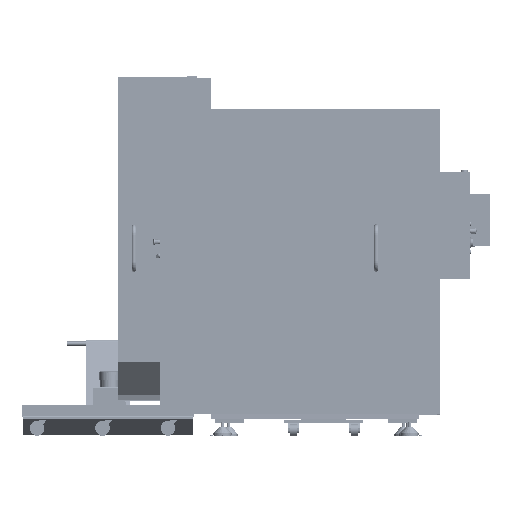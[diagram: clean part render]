
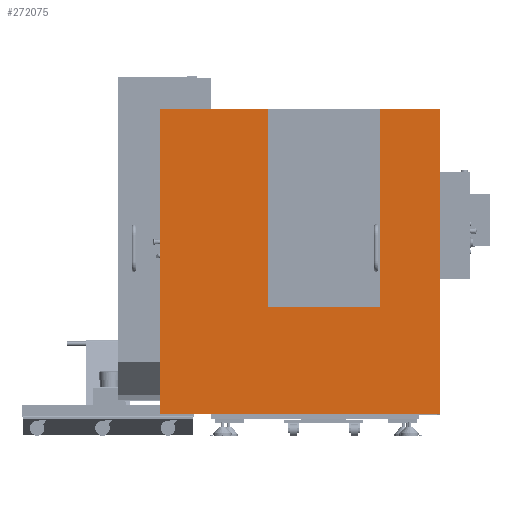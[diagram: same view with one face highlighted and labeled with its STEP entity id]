
A CAD part, top view. The second image highlights one B-rep face of the part: STEP entity #272075.
In plain terms, the highlighted planar face has unit normal (0, 0, 1).
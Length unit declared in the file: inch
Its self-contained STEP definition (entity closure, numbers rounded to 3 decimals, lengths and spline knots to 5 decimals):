
#327 = DIRECTION ( 'NONE',  ( 1., 0., 0. ) ) ;
#1882 = VERTEX_POINT ( 'NONE', #89722 ) ;
#26174 = EDGE_CURVE ( 'NONE', #85138, #162958, #224098, .T. ) ;
#26494 = ORIENTED_EDGE ( 'NONE', *, *, #121661, .F. ) ;
#27405 = CARTESIAN_POINT ( 'NONE',  ( -45.2691, 88.8047, 72.5956 ) ) ;
#30318 = ORIENTED_EDGE ( 'NONE', *, *, #35173, .F. ) ;
#32213 = CARTESIAN_POINT ( 'NONE',  ( -45.2691, 89.8247, 72.5956 ) ) ;
#32374 = ORIENTED_EDGE ( 'NONE', *, *, #184170, .T. ) ;
#34172 = CARTESIAN_POINT ( 'NONE',  ( 32., 89.8247, 72.5956 ) ) ;
#35173 = EDGE_CURVE ( 'NONE', #162958, #271604, #188012, .T. ) ;
#50725 = CARTESIAN_POINT ( 'NONE',  ( -15.35, 88.8047, 72.5956 ) ) ;
#54142 = VECTOR ( 'NONE', #381385, 39.37008 ) ;
#58490 = VECTOR ( 'NONE', #294336, 39.37008 ) ;
#68989 = VECTOR ( 'NONE', #327, 39.37008 ) ;
#80740 = ORIENTED_EDGE ( 'NONE', *, *, #408989, .T. ) ;
#85138 = VERTEX_POINT ( 'NONE', #302904 ) ;
#87979 = DIRECTION ( 'NONE',  ( 1., 0., 0. ) ) ;
#88183 = DIRECTION ( 'NONE',  ( 0., -1., 0. ) ) ;
#89722 = CARTESIAN_POINT ( 'NONE',  ( -15.35, 89.8247, 72.5956 ) ) ;
#91657 = ORIENTED_EDGE ( 'NONE', *, *, #177528, .T. ) ;
#93346 = LINE ( 'NONE', #27405, #346052 ) ;
#99809 = ORIENTED_EDGE ( 'NONE', *, *, #26174, .F. ) ;
#116579 = LINE ( 'NONE', #50725, #181664 ) ;
#117897 = VECTOR ( 'NONE', #332011, 39.37008 ) ;
#121661 = EDGE_CURVE ( 'NONE', #345281, #159929, #93346, .T. ) ;
#122626 = FACE_OUTER_BOUND ( 'NONE', #346609, .T. ) ;
#128963 = PLANE ( 'NONE',  #289182 ) ;
#135008 = CARTESIAN_POINT ( 'NONE',  ( 15.35, 88.8047, 72.5956 ) ) ;
#159929 = VERTEX_POINT ( 'NONE', #353067 ) ;
#161831 = LINE ( 'NONE', #32213, #68989 ) ;
#162365 = CARTESIAN_POINT ( 'NONE',  ( 30.98, 89.8247, 72.5956 ) ) ;
#162958 = VERTEX_POINT ( 'NONE', #34172 ) ;
#177528 = EDGE_CURVE ( 'NONE', #221765, #1882, #116579, .T. ) ;
#181664 = VECTOR ( 'NONE', #275945, 39.37008 ) ;
#184170 = EDGE_CURVE ( 'NONE', #227488, #221765, #272407, .T. ) ;
#185913 = CARTESIAN_POINT ( 'NONE',  ( 32., 5.9, 72.5956 ) ) ;
#188012 = LINE ( 'NONE', #185913, #410546 ) ;
#221765 = VERTEX_POINT ( 'NONE', #275281 ) ;
#224098 = LINE ( 'NONE', #162365, #54142 ) ;
#227488 = VERTEX_POINT ( 'NONE', #391242 ) ;
#254478 = VECTOR ( 'NONE', #87979, 39.37008 ) ;
#258581 = CARTESIAN_POINT ( 'NONE',  ( 30.98, 5.9, 72.5956 ) ) ;
#265639 = ORIENTED_EDGE ( 'NONE', *, *, #419777, .F. ) ;
#271604 = VERTEX_POINT ( 'NONE', #420531 ) ;
#272075 = ADVANCED_FACE ( 'NONE', ( #122626 ), #128963, .T. ) ;
#272407 = LINE ( 'NONE', #302178, #117897 ) ;
#275281 = CARTESIAN_POINT ( 'NONE',  ( -15.35, 35.1, 72.5956 ) ) ;
#275945 = DIRECTION ( 'NONE',  ( 0., 1., 0. ) ) ;
#289182 = AXIS2_PLACEMENT_3D ( 'NONE', #258581, #388206, #352092 ) ;
#294336 = DIRECTION ( 'NONE',  ( 0., 1., 0. ) ) ;
#302178 = CARTESIAN_POINT ( 'NONE',  ( 15.35, 35.1, 72.5956 ) ) ;
#302904 = CARTESIAN_POINT ( 'NONE',  ( 15.35, 89.8247, 72.5956 ) ) ;
#315256 = LINE ( 'NONE', #351394, #254478 ) ;
#325569 = EDGE_CURVE ( 'NONE', #227488, #85138, #362362, .T. ) ;
#329572 = CARTESIAN_POINT ( 'NONE',  ( -45.2691, 5.9, 72.5956 ) ) ;
#332011 = DIRECTION ( 'NONE',  ( -1., 0., 0. ) ) ;
#345281 = VERTEX_POINT ( 'NONE', #329572 ) ;
#346052 = VECTOR ( 'NONE', #410003, 39.37008 ) ;
#346609 = EDGE_LOOP ( 'NONE', ( #32374, #91657, #265639, #26494, #80740, #30318, #99809, #397294 ) ) ;
#351394 = CARTESIAN_POINT ( 'NONE',  ( 30.98, 5.9, 72.5956 ) ) ;
#352092 = DIRECTION ( 'NONE',  ( 0., -1., 0. ) ) ;
#353067 = CARTESIAN_POINT ( 'NONE',  ( -45.2691, 89.8247, 72.5956 ) ) ;
#362362 = LINE ( 'NONE', #135008, #58490 ) ;
#381385 = DIRECTION ( 'NONE',  ( 1., 0., 0. ) ) ;
#388206 = DIRECTION ( 'NONE',  ( 0., 0., 1. ) ) ;
#391242 = CARTESIAN_POINT ( 'NONE',  ( 15.35, 35.1, 72.5956 ) ) ;
#397294 = ORIENTED_EDGE ( 'NONE', *, *, #325569, .F. ) ;
#408989 = EDGE_CURVE ( 'NONE', #345281, #271604, #315256, .T. ) ;
#410003 = DIRECTION ( 'NONE',  ( 0., 1., 0. ) ) ;
#410546 = VECTOR ( 'NONE', #88183, 39.37008 ) ;
#419777 = EDGE_CURVE ( 'NONE', #159929, #1882, #161831, .T. ) ;
#420531 = CARTESIAN_POINT ( 'NONE',  ( 32., 5.9, 72.5956 ) ) ;
